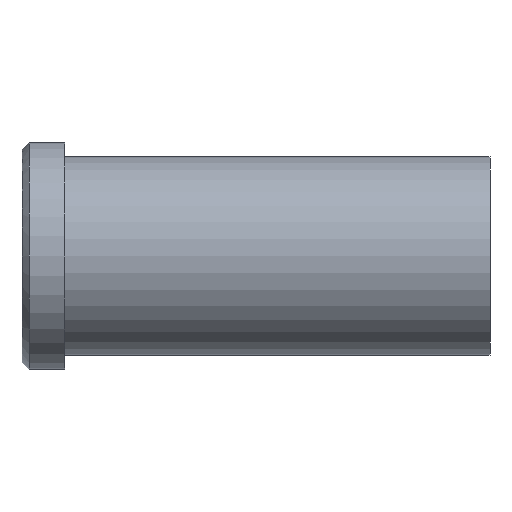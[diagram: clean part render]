
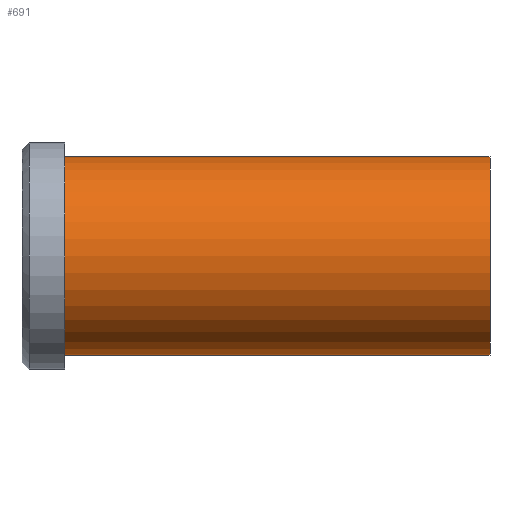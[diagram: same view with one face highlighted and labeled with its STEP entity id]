
A CAD part, front view. The second image highlights one B-rep face of the part: STEP entity #691.
In plain terms, the highlighted cylindrical face has radius 14 mm (diameter 28 mm), a partial arc.
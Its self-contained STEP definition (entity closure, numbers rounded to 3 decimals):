
#501=CARTESIAN_POINT('Vertex',(0.,0.,-14.)) ;
#506=CARTESIAN_POINT('Axis2P3D Location',(0.,0.,0.)) ;
#510=CARTESIAN_POINT('Vertex',(0.,-14.,0.)) ;
#513=CARTESIAN_POINT('Axis2P3D Location',(0.,0.,0.)) ;
#517=CARTESIAN_POINT('Vertex',(0.,0.,14.)) ;
#631=CARTESIAN_POINT('Line Origine',(60.,0.,14.)) ;
#635=CARTESIAN_POINT('Vertex',(60.,0.,14.)) ;
#649=CARTESIAN_POINT('Vertex',(60.,0.,-14.)) ;
#652=CARTESIAN_POINT('Line Origine',(60.,0.,-14.)) ;
#666=CARTESIAN_POINT('Axis2P3D Location',(60.,0.,0.)) ;
#671=CARTESIAN_POINT('Axis2P3D Location',(60.,0.,0.)) ;
#675=CARTESIAN_POINT('Vertex',(60.,-14.,0.)) ;
#678=CARTESIAN_POINT('Axis2P3D Location',(60.,0.,0.)) ;
#507=DIRECTION('Axis2P3D Direction',(1.,0.,-0.)) ;
#514=DIRECTION('Axis2P3D Direction',(1.,0.,-0.)) ;
#632=DIRECTION('Vector Direction',(-1.,0.,0.)) ;
#653=DIRECTION('Vector Direction',(-1.,0.,0.)) ;
#667=DIRECTION('Axis2P3D Direction',(-1.,-0.,-0.)) ;
#668=DIRECTION('Axis2P3D XDirection',(0.,0.,-1.)) ;
#672=DIRECTION('Axis2P3D Direction',(-1.,-0.,-0.)) ;
#679=DIRECTION('Axis2P3D Direction',(-1.,-0.,-0.)) ;
#508=AXIS2_PLACEMENT_3D('Circle Axis2P3D',#506,#507,$) ;
#515=AXIS2_PLACEMENT_3D('Circle Axis2P3D',#513,#514,$) ;
#669=AXIS2_PLACEMENT_3D('Cylinder Axis2P3D',#666,#667,#668) ;
#673=AXIS2_PLACEMENT_3D('Circle Axis2P3D',#671,#672,$) ;
#680=AXIS2_PLACEMENT_3D('Circle Axis2P3D',#678,#679,$) ;
#684=ORIENTED_EDGE('',*,*,#656,.T.) ;
#685=ORIENTED_EDGE('',*,*,#677,.F.) ;
#686=ORIENTED_EDGE('',*,*,#682,.F.) ;
#687=ORIENTED_EDGE('',*,*,#637,.T.) ;
#688=ORIENTED_EDGE('',*,*,#519,.T.) ;
#689=ORIENTED_EDGE('',*,*,#512,.T.) ;
#633=VECTOR('Line Direction',#632,1.) ;
#654=VECTOR('Line Direction',#653,1.) ;
#691=ADVANCED_FACE('353-20X66',(#690),#670,.T.) ;
#509=CIRCLE('generated circle',#508,14.) ;
#516=CIRCLE('generated circle',#515,14.) ;
#674=CIRCLE('generated circle',#673,14.) ;
#681=CIRCLE('generated circle',#680,14.) ;
#670=CYLINDRICAL_SURFACE('generated cylinder',#669,14.) ;
#512=EDGE_CURVE('',#511,#502,#509,.T.) ;
#519=EDGE_CURVE('',#518,#511,#516,.T.) ;
#637=EDGE_CURVE('',#636,#518,#634,.T.) ;
#656=EDGE_CURVE('',#502,#650,#655,.F.) ;
#677=EDGE_CURVE('',#676,#650,#674,.F.) ;
#682=EDGE_CURVE('',#636,#676,#681,.F.) ;
#683=EDGE_LOOP('',(#684,#685,#686,#687,#688,#689)) ;
#690=FACE_OUTER_BOUND('',#683,.T.) ;
#634=LINE('Line',#631,#633) ;
#655=LINE('Line',#652,#654) ;
#502=VERTEX_POINT('',#501) ;
#511=VERTEX_POINT('',#510) ;
#518=VERTEX_POINT('',#517) ;
#636=VERTEX_POINT('',#635) ;
#650=VERTEX_POINT('',#649) ;
#676=VERTEX_POINT('',#675) ;
